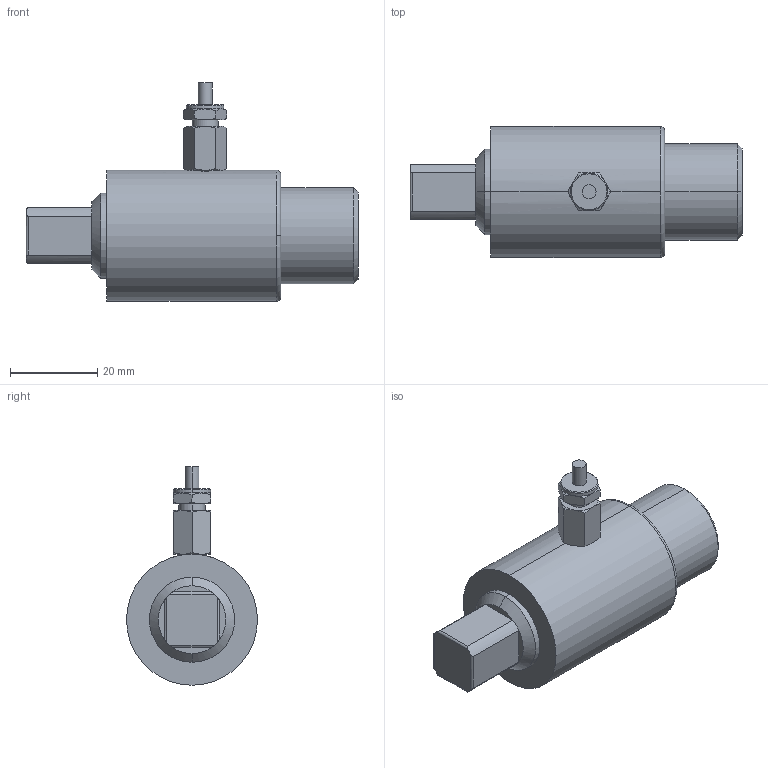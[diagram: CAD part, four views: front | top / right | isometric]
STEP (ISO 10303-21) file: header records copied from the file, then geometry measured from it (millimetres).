
FILE_DESCRIPTION(('STEP AP203'),'1');
FILE_NAME('C:/TPO v2/SharedFS/Outgoing/burster_8632-5100_bu1r5h6w7w0v071d1ghlysh3r.stp','2013-08-28T18:21:44',('TraceParts'),('TraceParts S.A.'),'XStep 1.0',' ',' ');
FILE_SCHEMA(('CONFIG_CONTROL_DESIGN'));
Length unit declared in the file: millimetre
Products named in the file (1): 1
Bounding box: 76 x 30 x 50 mm (x, y, z)
Volume: 36550.4 mm3; surface area: 8504.6 mm2
Topology: 1 solids, 1 shells, 97 faces, 212 edges, 123 vertices
Faces by surface type: cone 38, plane 35, cylinder 22, torus 2
Entity records: 2874 total; most frequent: CARTESIAN_POINT 816, DIRECTION 431, ORIENTED_EDGE 428, EDGE_CURVE 212, AXIS2_PLACEMENT_3D 179, VERTEX_POINT 123, EDGE_LOOP 103, ADVANCED_FACE 97
